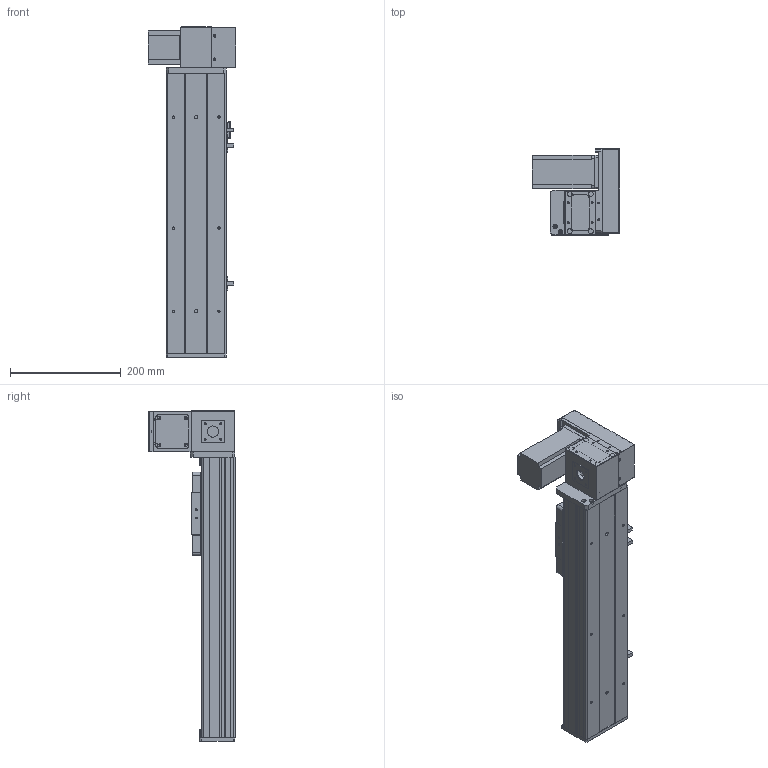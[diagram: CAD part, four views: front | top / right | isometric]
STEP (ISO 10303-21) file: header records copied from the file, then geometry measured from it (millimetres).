
FILE_DESCRIPTION (( 'STEP AP203' ), '1' );
FILE_NAME ('Y10CB-D90-S250-UR-P400W.STEP', '2020-02-16T02:57:43', ( '微软用户' ), ( '微软中国' ), 'SwSTEP 2.0', 'SolidWorks 2017', '' );
FILE_SCHEMA (( 'CONFIG_CONTROL_DESIGN' ));
Length unit declared in the file: millimetre
Products named in the file (18): Y100-135俋离換覜ん--; 0B-源倛裔啣; Y10B--々湍喘謫眊--666; 0B-埴倛裔啣; 0CB-雄赽釱---; Y10B-耜蚾蟀諉啣----; 10CB-詩湍-; 0Cb-俋欶---; 00B-俋欶BM--; Y10CB- 掛极耜裔啣-毀---; Y10CB-D90-S250-UR-P400W; Y10C---詩湍揤啣; 10CB9-掛极; Y10B-々湍喘謫眊楊擘啣--; 10CB-耜裔; 0B-萇儂楊擘啣; Y135C-陔俋离換覜結え-; san松下电机400不带刹车----
Assembly tree (21 placements, depth 2):
  Y10CB-D90-S250-UR-P400W
    0CB-雄赽釱---
    0Cb-俋欶---
    Y10B-々湍喘謫眊楊擘啣--
    0B-萇儂楊擘啣
    san松下电机400不带刹车----
    0B-源倛裔啣
    0B-埴倛裔啣
    10CB-詩湍-
    Y10CB- 掛极耜裔啣-毀---  x2
    Y10C---詩湍揤啣  x2
    10CB9-掛极
    10CB-耜裔
    Y135C-陔俋离換覜結え-
    Y100-135俋离換覜ん--  x3
    Y10B--々湍喘謫眊--666
    Y10B-耜蚾蟀諉啣----
    00B-俋欶BM--
Bounding box: 157 x 155.5 x 596 mm (x, y, z)
Volume: 1827237 mm3; surface area: 751223.9 mm2
Topology: 21 solids, 21 shells, 942 faces, 2483 edges, 1634 vertices
Faces by surface type: plane 469, cylinder 449, cone 24
Entity records: 28912 total; most frequent: CARTESIAN_POINT 4877, DIRECTION 4726, ORIENTED_EDGE 4436, EDGE_CURVE 2218, AXIS2_PLACEMENT_3D 1693, VERTEX_POINT 1460, LINE 1340, VECTOR 1340
